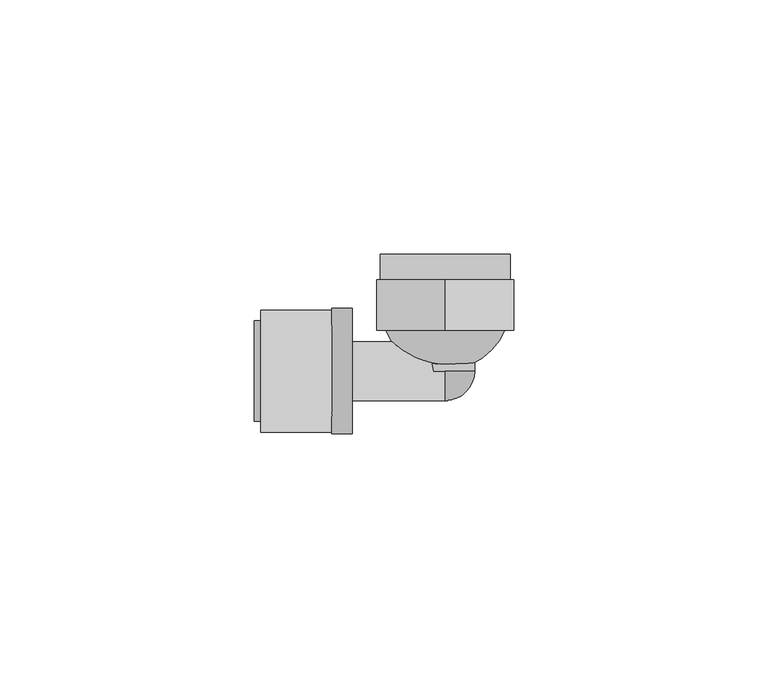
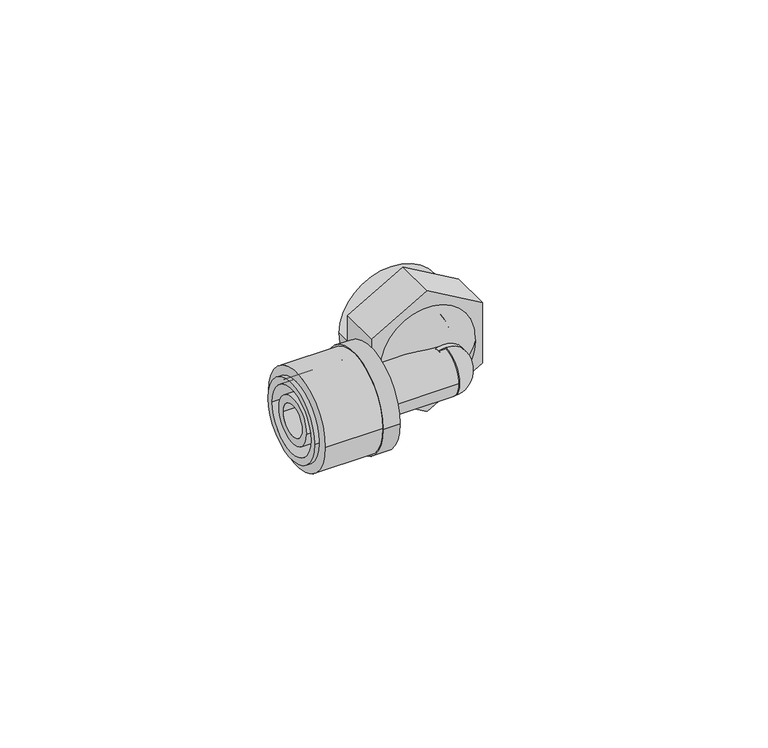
"""IFC4 building model written with IfcOpenShell, lengths in millimetres: pipe fitting geometry, FASTLOC_Elbow with female thread EX+ : FSL A internal AT."""

from ifc_helpers import new_model, si_unit, point, frame, origin, origin_2d, place, context, project, spatial, polyline, circle_curve, ellipse_curve, trimmed, segment, composite_curve, outline, extrude, source, transform, mapped, element, save
from ifc_brep_helpers import plane_surface, cylinder_surface, revolved_surface, advanced_brep


def pipe_fitting_5bb2cb98(model_context):
    return source(origin(), model_context, "Body", "SolidModel", [
        extrude(outline(composite_curve([segment(trimmed(circle_curve(origin_2d(), 12.0), [point((12.0, 0.0))], [point((-12.0, 0.0))], False, "CARTESIAN"), True, "CONTINUOUS"), segment(trimmed(circle_curve(origin_2d(), 12.0), [point((-12.0, 0.0))], [point((12.0, 0.0))], False, "CARTESIAN"), True, "CONTINUOUS")], self_intersect=False), holes=[composite_curve([segment(trimmed(circle_curve(origin_2d(), 8.85), [point((8.85, 0.0))], [point((-8.85, 0.0))], True, "CARTESIAN"), True, "CONTINUOUS"), segment(trimmed(circle_curve(origin_2d(), 8.85), [point((-8.85, 0.0))], [point((8.85, 0.0))], True, "CARTESIAN"), True, "CONTINUOUS")], self_intersect=False)]), frame((-36.3, 0.0, 0.0), z_axis=(1.0, 0.0, 0.0), x_axis=(0.0, 1.0, 0.0)), (0.0, 0.0, 1.0), 14.0),
        advanced_brep(
        [(-22.3, -12.35, 0.0), (-22.3, 12.35, 0.0), (-18.3, 12.35, 0.0), (-18.3, -12.35, 0.0), (-37.6, -9.85, 0.0), (-37.6, 9.85, 0.0), (-22.3, 9.85, 0.0), (-22.3, -9.85, 0.0), (-18.3, -8.15, 0.0), (-18.3, 8.15, 0.0), (-37.6, 8.15, 0.0), (-37.6, -8.15, 0.0)],
        [
            (0, 1, circle_curve(frame((-22.3, 0.0, 0.0), z_axis=(1.0, 0.0, 0.0), x_axis=(0.0, 1.0, 0.0)), 12.35)),
            (1, 2),
            (2, 3, circle_curve(frame((-18.3, 0.0, 0.0), z_axis=(-1.0, 0.0, 0.0), x_axis=(0.0, 1.0, 0.0)), 12.35)),
            (3, 0),
            (4, 5, circle_curve(frame((-37.6, 0.0, 0.0), z_axis=(1.0, 0.0, 0.0), x_axis=(0.0, 1.0, 0.0)), 9.85)),
            (5, 6),
            (6, 7, circle_curve(frame((-22.3, 0.0, 0.0), z_axis=(-1.0, 0.0, 0.0), x_axis=(0.0, 1.0, 0.0)), 9.85)),
            (7, 4),
            (8, 9, circle_curve(frame((-18.3, 0.0, 0.0), z_axis=(1.0, 0.0, 0.0), x_axis=(0.0, 1.0, 0.0)), 8.15)),
            (9, 10),
            (10, 11, circle_curve(frame((-37.6, 0.0, 0.0), z_axis=(-1.0, 0.0, 0.0), x_axis=(0.0, 1.0, 0.0)), 8.15)),
            (11, 8),
            (1, 0, circle_curve(frame((-22.3, 0.0, 0.0), z_axis=(1.0, 0.0, 0.0), x_axis=(0.0, -1.0, 0.0)), 12.35)),
            (3, 2, circle_curve(frame((-18.3, 0.0, 0.0), z_axis=(-1.0, 0.0, 0.0), x_axis=(0.0, -1.0, 0.0)), 12.35)),
            (6, 7, circle_curve(frame((-22.3, 0.0, 0.0), z_axis=(1.0, 0.0, 0.0), x_axis=(0.0, -1.0, 0.0)), 9.85)),
            (5, 4, circle_curve(frame((-37.6, 0.0, 0.0), z_axis=(1.0, 0.0, 0.0), x_axis=(0.0, -1.0, 0.0)), 9.85)),
            (10, 11, circle_curve(frame((-37.6, 0.0, 0.0), z_axis=(1.0, 0.0, 0.0), x_axis=(0.0, -1.0, 0.0)), 8.15)),
            (9, 8, circle_curve(frame((-18.3, 0.0, 0.0), z_axis=(1.0, 0.0, 0.0), x_axis=(0.0, -1.0, 0.0)), 8.15)),
        ],
        [
            cylinder_surface(frame((-18.3, 0.0, 0.0), z_axis=(-1.0, 0.0, 0.0), x_axis=(0.0, 1.0, 0.0)), 12.35),
            cylinder_surface(frame((-18.3, 0.0, 0.0), z_axis=(-1.0, 0.0, 0.0), x_axis=(0.0, 1.0, 0.0)), 9.85),
            revolved_surface(polyline([(-37.6, 8.15, 0.0), (-18.3, 8.15, 0.0)]), (-18.3, 0.0, 0.0), (-1.0, 0.0, 0.0)),
            cylinder_surface(frame((-18.3, 0.0, 0.0), z_axis=(-1.0, 0.0, 0.0), x_axis=(0.0, -1.0, 0.0)), 12.35),
            plane_surface(frame((-22.3, 0.0, 0.0), z_axis=(-1.0, 0.0, 0.0), x_axis=(0.0, -1.0, 0.0))),
            cylinder_surface(frame((-18.3, 0.0, 0.0), z_axis=(-1.0, 0.0, 0.0), x_axis=(0.0, -1.0, 0.0)), 9.85),
            plane_surface(frame((-37.6, 0.0, 0.0), z_axis=(-1.0, 0.0, 0.0), x_axis=(0.0, -1.0, 0.0))),
            revolved_surface(polyline([(-37.6, -8.15, 0.0), (-18.3, -8.15, 0.0)]), (-18.3, 0.0, 0.0), (-1.0, 0.0, 0.0)),
            plane_surface(frame((-18.3, 0.0, 0.0), z_axis=(1.0, 0.0, 0.0), x_axis=(0.0, -1.0, 0.0))),
        ],
        [
            (0, [[1, 2, 3, 4]]),
            (1, [[5, 6, 7, 8]]),
            (2, [[9, 10, 11, 12]]),
            (3, [[13, -4, 14, -2]]),
            (4, [[-13, -1], [15, -7]]),
            (5, [[16, -8, -15, -6]]),
            (6, [[-16, -5], [17, -11]]),
            (7, [[18, -12, -17, -10]]),
            (8, [[-14, -3], [-18, -9]]),
        ],
    ),
        advanced_brep(
        [(0.0, 0.0, 5.8), (0.0, 0.0, 2.9), (0.0, -2.9, 0.0), (0.0, -5.8, 0.0), (0.0, 0.0, -5.8), (0.0, 0.0, -2.9)],
        [
            (0, 1),
            (1, 2, circle_curve(frame((0.0, 0.0, 0.0), z_axis=(1.0, 0.0, 0.0), x_axis=(0.0, 0.0, 1.0)), 2.9)),
            (2, 3),
            (3, 0, circle_curve(frame((0.0, 0.0, 0.0), z_axis=(-1.0, 0.0, 0.0), x_axis=(0.0, 0.0, 1.0)), 5.8)),
            (4, 3, circle_curve(frame((0.0, 0.0, 0.0), z_axis=(-1.0, 0.0, 0.0), x_axis=(0.0, 0.0, -1.0)), 5.8)),
            (2, 5, circle_curve(frame((0.0, 0.0, 0.0), z_axis=(1.0, 0.0, 0.0), x_axis=(0.0, 0.0, -1.0)), 2.9)),
            (5, 4),
            (5, 1, circle_curve(frame((0.0, 0.0, 0.0), z_axis=(0.0, -1.0, 0.0), x_axis=(0.0, 0.0, 1.0)), 2.9)),
            (0, 4, circle_curve(frame((0.0, 0.0, 0.0), z_axis=(0.0, 1.0, 0.0), x_axis=(0.0, 0.0, 1.0)), 5.8)),
        ],
        [
            plane_surface(frame((0.0, 0.0, 0.0), z_axis=(-1.0, 0.0, 0.0), x_axis=(0.0, 0.0, 1.0))),
            plane_surface(frame((0.0, 0.0, 0.0), z_axis=(-1.0, 0.0, 0.0), x_axis=(0.0, 0.0, -1.0))),
            plane_surface(frame((0.0, 0.0, 0.0), z_axis=(0.0, 1.0, 0.0), x_axis=(0.0, 0.0, 1.0))),
            revolved_surface(trimmed(ellipse_curve(frame((0.0, 0.0, 0.0), z_axis=(1.0, 0.0, 0.0), x_axis=(0.0, 0.0, 1.0)), 2.9, 2.9), [point((0.0, 0.0, 2.9))], [point((0.0, -2.9, 0.0))], True, "CARTESIAN"), (0.0, 0.0, 0.0), (0.0, 1.0, 0.0)),
            revolved_surface(trimmed(ellipse_curve(frame((0.0, 0.0, 0.0), z_axis=(-1.0, 0.0, 0.0), x_axis=(0.0, 0.0, 1.0)), 5.8, 5.8), [point((0.0, -5.8, 0.0))], [point((0.0, 0.0, 5.8))], True, "CARTESIAN"), (0.0, 0.0, 0.0), (0.0, 1.0, 0.0)),
        ],
        [
            (0, [[1, 2, 3, 4]]),
            (1, [[5, -3, 6, 7]]),
            (2, [[8, -1, 9, -7]]),
            (3, [[-2, -8, -6]]),
            (4, [[-9, -4, -5]]),
        ],
    ),
        extrude(outline(polyline([(-7.7942286, 13.5), (7.7942286, 13.5), (15.5884573, 0.0), (7.7942286, -13.5), (-7.7942286, -13.5), (-15.5884573, 0.0), (-7.7942286, 13.5)])), frame((0.0, 8.0, 0.0), z_axis=(0.0, 1.0, 0.0), x_axis=(0.0, 0.0, 1.0)), (0.0, 0.0, 1.0), 10.0),
        advanced_brep(
        [(0.5, 0.2598077, 0.0), (-0.5, 0.2598077, 0.0), (-12.75, 13.0, 0.0), (12.75, 13.0, 0.0), (0.5, 5.5166852, 0.0), (-0.5, 5.5166852, 0.0), (7.5, 13.0, 0.0), (-7.5, 13.0, 0.0), (7.5, 23.0, 0.0), (-7.5, 23.0, 0.0), (-12.75, 23.0, 0.0), (12.75, 23.0, 0.0)],
        [
            (0, 1, circle_curve(frame((0.0, 0.2598077, 0.0), z_axis=(0.0, 1.0, 0.0), x_axis=(-1.0, 0.0, 0.0)), 0.5)),
            (1, 2, circle_curve(frame((0.0, 13.0, 0.0), z_axis=(0.0, 0.0, -1.0), x_axis=(0.0, 1.0, 0.0)), 12.75)),
            (2, 3, circle_curve(frame((0.0, 13.0, 0.0), z_axis=(0.0, -1.0, 0.0), x_axis=(-1.0, 0.0, 0.0)), 12.75)),
            (3, 0, circle_curve(frame((0.0, 13.0, 0.0), z_axis=(0.0, 0.0, -1.0), x_axis=(0.0, 1.0, 0.0)), 12.75)),
            (4, 5, circle_curve(frame((0.0, 5.5166852, 0.0), z_axis=(0.0, 1.0, 0.0), x_axis=(-1.0, 0.0, 0.0)), 0.5)),
            (5, 1),
            (0, 4),
            (6, 7, circle_curve(frame((0.0, 13.0, 0.0), z_axis=(0.0, 1.0, 0.0), x_axis=(-1.0, 0.0, 0.0)), 7.5)),
            (7, 5, circle_curve(frame((0.0, 13.0, 0.0), z_axis=(0.0, 0.0, 1.0), x_axis=(0.0, 1.0, 0.0)), 7.5)),
            (4, 6, circle_curve(frame((0.0, 13.0, 0.0), z_axis=(0.0, 0.0, 1.0), x_axis=(0.0, 1.0, 0.0)), 7.5)),
            (8, 9, circle_curve(frame((0.0, 23.0, 0.0), z_axis=(0.0, 1.0, 0.0), x_axis=(-1.0, 0.0, 0.0)), 7.5)),
            (9, 7),
            (6, 8),
            (2, 10),
            (10, 11, circle_curve(frame((0.0, 23.0, 0.0), z_axis=(0.0, -1.0, 0.0), x_axis=(-1.0, 0.0, 0.0)), 12.75)),
            (11, 3),
            (1, 0, circle_curve(frame((0.0, 0.2598077, 0.0), z_axis=(0.0, 1.0, 0.0), x_axis=(1.0, 0.0, 0.0)), 0.5)),
            (3, 2, circle_curve(frame((0.0, 13.0, 0.0), z_axis=(0.0, -1.0, 0.0), x_axis=(1.0, 0.0, 0.0)), 12.75)),
            (5, 4, circle_curve(frame((0.0, 5.5166852, 0.0), z_axis=(0.0, 1.0, 0.0), x_axis=(1.0, 0.0, 0.0)), 0.5)),
            (7, 6, circle_curve(frame((0.0, 13.0, 0.0), z_axis=(0.0, 1.0, 0.0), x_axis=(1.0, 0.0, 0.0)), 7.5)),
            (9, 8, circle_curve(frame((0.0, 23.0, 0.0), z_axis=(0.0, 1.0, 0.0), x_axis=(1.0, 0.0, 0.0)), 7.5)),
            (10, 11, circle_curve(frame((0.0, 23.0, 0.0), z_axis=(0.0, 1.0, 0.0), x_axis=(1.0, 0.0, 0.0)), 12.75)),
        ],
        [
            revolved_surface(trimmed(ellipse_curve(frame((0.0, 13.0, 0.0), z_axis=(0.0, 0.0, 1.0), x_axis=(0.0, 1.0, 0.0)), 12.75, 12.75), [point((-12.75, 13.0, 0.0))], [point((-0.5, 0.2598077, 0.0))], True, "CARTESIAN"), (0.0, 8.0, 0.0), (0.0, -1.0, 0.0)),
            revolved_surface(polyline([(-0.5, 0.25980769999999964, 0.0), (-0.5, 5.5166852, 0.0)]), (0.0, 8.0, 0.0), (0.0, -1.0, 0.0)),
            revolved_surface(trimmed(ellipse_curve(frame((0.0, 13.0, 0.0), z_axis=(0.0, 0.0, -1.0), x_axis=(0.0, 1.0, 0.0)), 7.5, 7.5), [point((-0.5, 5.5166852, 0.0))], [point((-7.5, 13.0, 0.0))], True, "CARTESIAN"), (0.0, 8.0, 0.0), (0.0, -1.0, 0.0)),
            revolved_surface(polyline([(-7.5, 13.0, 0.0), (-7.5, 23.0, 0.0)]), (0.0, 8.0, 0.0), (0.0, -1.0, 0.0)),
            cylinder_surface(frame((0.0, 8.0, 0.0), z_axis=(0.0, -1.0, 0.0), x_axis=(-1.0, 0.0, 0.0)), 12.75),
            revolved_surface(trimmed(ellipse_curve(frame((0.0, 13.0, 0.0), z_axis=(0.0, 0.0, -1.0), x_axis=(0.0, 1.0, 0.0)), 12.75, 12.75), [point((12.75, 13.0, 0.0))], [point((0.5, 0.2598077, 0.0))], True, "CARTESIAN"), (0.0, 8.0, 0.0), (0.0, -1.0, 0.0)),
            revolved_surface(polyline([(0.5, 0.25980769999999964, 0.0), (0.5, 5.5166852, 0.0)]), (0.0, 8.0, 0.0), (0.0, -1.0, 0.0)),
            revolved_surface(trimmed(ellipse_curve(frame((0.0, 13.0, 0.0), z_axis=(0.0, 0.0, 1.0), x_axis=(0.0, 1.0, 0.0)), 7.5, 7.5), [point((0.5, 5.5166852, 0.0))], [point((7.5, 13.0, 0.0))], True, "CARTESIAN"), (0.0, 8.0, 0.0), (0.0, -1.0, 0.0)),
            revolved_surface(polyline([(7.5, 13.0, 0.0), (7.5, 23.0, 0.0)]), (0.0, 8.0, 0.0), (0.0, -1.0, 0.0)),
            plane_surface(frame((0.0, 23.0, 0.0), z_axis=(0.0, 1.0, 0.0), x_axis=(1.0, 0.0, 0.0))),
            cylinder_surface(frame((0.0, 8.0, 0.0), z_axis=(0.0, -1.0, 0.0), x_axis=(1.0, 0.0, 0.0)), 12.75),
        ],
        [
            (0, [[1, 2, 3, 4]]),
            (1, [[5, 6, -1, 7]]),
            (2, [[8, 9, -5, 10]]),
            (3, [[11, 12, -8, 13]]),
            (4, [[-3, 14, 15, 16]]),
            (5, [[17, -4, 18, -2]]),
            (6, [[19, -7, -17, -6]]),
            (7, [[20, -10, -19, -9]]),
            (8, [[21, -13, -20, -12]]),
            (9, [[22, -15], [-21, -11]]),
            (10, [[-18, -16, -22, -14]]),
        ],
    ),
        extrude(outline(composite_curve([segment(trimmed(circle_curve(origin_2d(), 5.8), [point((0.0, -5.8))], [point((0.0, 5.8))], False, "CARTESIAN"), True, "CONTINUOUS"), segment(trimmed(circle_curve(origin_2d(), 5.8), [point((0.0, 5.8))], [point((0.0, -5.8))], False, "CARTESIAN"), True, "CONTINUOUS")], self_intersect=False), holes=[composite_curve([segment(trimmed(circle_curve(origin_2d(), 3.95), [point((0.0, -3.95))], [point((0.0, 3.95))], True, "CARTESIAN"), True, "CONTINUOUS"), segment(trimmed(circle_curve(origin_2d(), 3.95), [point((0.0, 3.95))], [point((0.0, -3.95))], True, "CARTESIAN"), True, "CONTINUOUS")], self_intersect=False)]), frame((0.0, 0.0, 0.0), z_axis=(0.0, 1.0, 0.0), x_axis=(0.0, 0.0, 1.0)), (0.0, 0.0, 1.0), 8.0),
        advanced_brep(
        [(-22.3, 5.8, 0.0), (-22.3, -5.8, 0.0), (-37.3, -5.8, 0.0), (-37.3, 5.8, 0.0), (-19.6, 6.9, 0.0), (-19.6, -6.9, 0.0), (-22.3, -6.9, 0.0), (-22.3, 6.9, 0.0), (0.0, 5.8, 0.0), (0.0, -5.8, 0.0), (-19.6, -5.8, 0.0), (-19.6, 5.8, 0.0), (-37.3, 3.95, 0.0), (-37.3, -3.95, 0.0), (0.0, -3.95, 0.0), (0.0, 3.95, 0.0)],
        [
            (0, 1, circle_curve(frame((-22.3, 0.0, 0.0), z_axis=(-1.0, 0.0, 0.0), x_axis=(0.0, -1.0, 0.0)), 5.8)),
            (1, 2),
            (2, 3, circle_curve(frame((-37.3, 0.0, 0.0), z_axis=(1.0, 0.0, 0.0), x_axis=(0.0, -1.0, 0.0)), 5.8)),
            (3, 0),
            (4, 5, circle_curve(frame((-19.6, 0.0, 0.0), z_axis=(-1.0, 0.0, 0.0), x_axis=(0.0, -1.0, 0.0)), 6.9)),
            (5, 6),
            (6, 7, circle_curve(frame((-22.3, 0.0, 0.0), z_axis=(1.0, 0.0, 0.0), x_axis=(0.0, -1.0, 0.0)), 6.9)),
            (7, 4),
            (8, 9, circle_curve(frame((0.0, 0.0, 0.0), z_axis=(-1.0, 0.0, 0.0), x_axis=(0.0, -1.0, 0.0)), 5.8)),
            (9, 10),
            (10, 11, circle_curve(frame((-19.6, 0.0, 0.0), z_axis=(1.0, 0.0, 0.0), x_axis=(0.0, -1.0, 0.0)), 5.8)),
            (11, 8),
            (12, 13, circle_curve(frame((-37.3, 0.0, 0.0), z_axis=(-1.0, 0.0, 0.0), x_axis=(0.0, -1.0, 0.0)), 3.95)),
            (13, 14),
            (14, 15, circle_curve(frame((0.0, 0.0, 0.0), z_axis=(1.0, 0.0, 0.0), x_axis=(0.0, -1.0, 0.0)), 3.95)),
            (15, 12),
            (2, 3, circle_curve(frame((-37.3, 0.0, 0.0), z_axis=(-1.0, 0.0, 0.0), x_axis=(0.0, 1.0, 0.0)), 5.8)),
            (12, 13, circle_curve(frame((-37.3, 0.0, 0.0), z_axis=(1.0, 0.0, 0.0), x_axis=(0.0, 1.0, 0.0)), 3.95)),
            (1, 0, circle_curve(frame((-22.3, 0.0, 0.0), z_axis=(-1.0, 0.0, 0.0), x_axis=(0.0, 1.0, 0.0)), 5.8)),
            (6, 7, circle_curve(frame((-22.3, 0.0, 0.0), z_axis=(-1.0, 0.0, 0.0), x_axis=(0.0, 1.0, 0.0)), 6.9)),
            (5, 4, circle_curve(frame((-19.6, 0.0, 0.0), z_axis=(-1.0, 0.0, 0.0), x_axis=(0.0, 1.0, 0.0)), 6.9)),
            (10, 11, circle_curve(frame((-19.6, 0.0, 0.0), z_axis=(-1.0, 0.0, 0.0), x_axis=(0.0, 1.0, 0.0)), 5.8)),
            (9, 8, circle_curve(frame((0.0, 0.0, 0.0), z_axis=(-1.0, 0.0, 0.0), x_axis=(0.0, 1.0, 0.0)), 5.8)),
            (14, 15, circle_curve(frame((0.0, 0.0, 0.0), z_axis=(-1.0, 0.0, 0.0), x_axis=(0.0, 1.0, 0.0)), 3.95)),
        ],
        [
            cylinder_surface(frame((0.0, 0.0, 0.0), z_axis=(1.0, 0.0, 0.0), x_axis=(0.0, -1.0, 0.0)), 5.8),
            cylinder_surface(frame((0.0, 0.0, 0.0), z_axis=(1.0, 0.0, 0.0), x_axis=(0.0, -1.0, 0.0)), 6.9),
            revolved_surface(polyline([(0.0, -3.95, 0.0), (-37.3, -3.95, 0.0)]), (0.0, 0.0, 0.0), (1.0, 0.0, 0.0)),
            plane_surface(frame((-37.3, 0.0, 0.0), z_axis=(-1.0, 0.0, 0.0), x_axis=(0.0, 1.0, 0.0))),
            cylinder_surface(frame((0.0, 0.0, 0.0), z_axis=(1.0, 0.0, 0.0), x_axis=(0.0, 1.0, 0.0)), 5.8),
            plane_surface(frame((-22.3, 0.0, 0.0), z_axis=(-1.0, 0.0, 0.0), x_axis=(0.0, 1.0, 0.0))),
            cylinder_surface(frame((0.0, 0.0, 0.0), z_axis=(1.0, 0.0, 0.0), x_axis=(0.0, 1.0, 0.0)), 6.9),
            plane_surface(frame((-19.6, 0.0, 0.0), z_axis=(1.0, 0.0, 0.0), x_axis=(0.0, 1.0, 0.0))),
            plane_surface(frame((0.0, 0.0, 0.0), z_axis=(1.0, 0.0, 0.0), x_axis=(0.0, 1.0, 0.0))),
            revolved_surface(polyline([(0.0, 3.95, 0.0), (-37.3, 3.95, 0.0)]), (0.0, 0.0, 0.0), (1.0, 0.0, 0.0)),
        ],
        [
            (0, [[1, 2, 3, 4]]),
            (1, [[5, 6, 7, 8]]),
            (0, [[9, 10, 11, 12]]),
            (2, [[13, 14, 15, 16]]),
            (3, [[17, -3], [18, -13]]),
            (4, [[19, -4, -17, -2]]),
            (5, [[20, -7], [-19, -1]]),
            (6, [[21, -8, -20, -6]]),
            (7, [[-21, -5], [22, -11]]),
            (4, [[23, -12, -22, -10]]),
            (8, [[-23, -9], [24, -15]]),
            (9, [[-18, -16, -24, -14]]),
        ],
    ),
    ])


if __name__ == "__main__":
    model = new_model("IFC4")
    model_context = context("Model", 3, world=origin())
    ifc_project = project(units=[si_unit("LENGTHUNIT", "METRE", prefix="MILLI")], contexts=[model_context])
    site = spatial("IfcSite", under=ifc_project)
    building = spatial("IfcBuilding", under=site)
    placement = place(None, origin())
    pipe_fitting_shape = pipe_fitting_5bb2cb98(model_context)
    element("IfcPipeFitting", 1, ObjectType="FASTLOC_Elbow with female thread EX+ : FSL A internal AT", at=placement, inside=building, context=model_context, shape_type="MappedRepresentation", body=[
        mapped(pipe_fitting_shape, transform((0.0, 0.0, 0.0), x_axis=(1.0, 0.0, 0.0), y_axis=(0.0, 1.0, 0.0), z_axis=(0.0, 0.0, 1.0))),
    ])
    save(model, "model.ifc")
